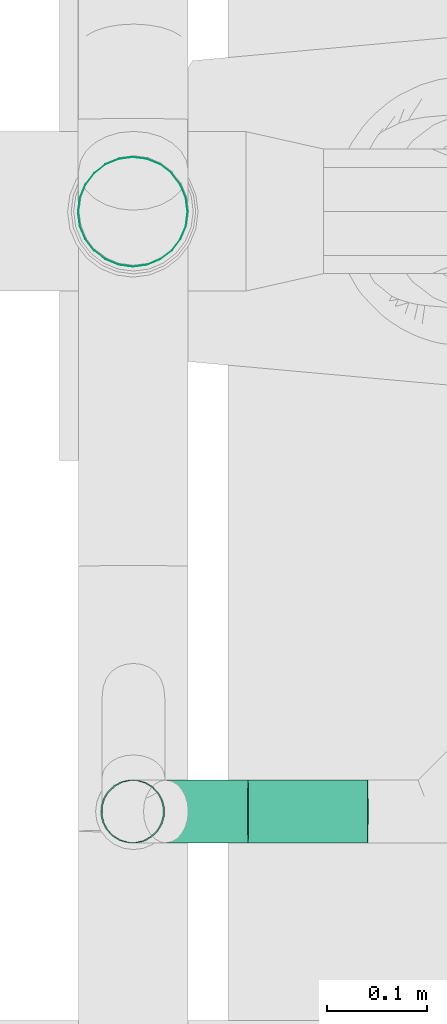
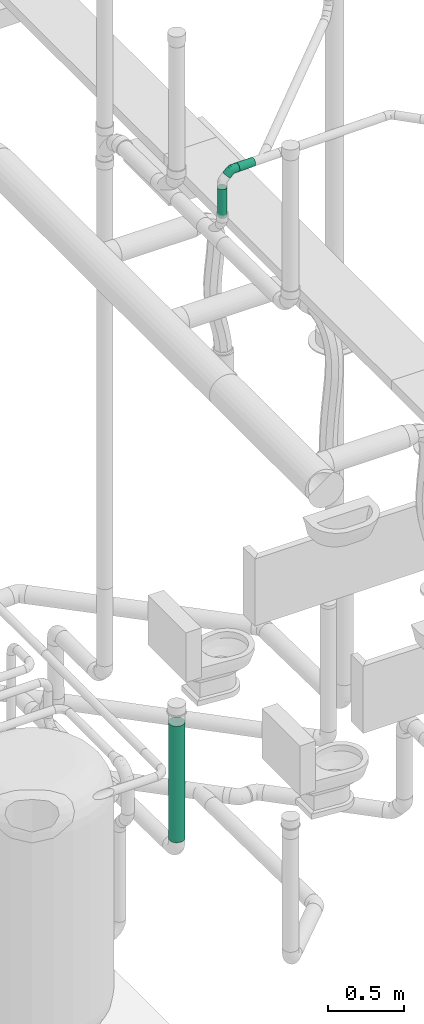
# One storey, part 300 of 374: 3 flow segments, 1 flow fitting.
"""IFC2X3 building model written with IfcOpenShell, lengths in metres."""

from ifc_helpers import new_model, si_unit, direction, origin, place, context, subcontext, project, spatial, open_shell, surface_model, source, transform, mapped, element, save


model = new_model("IFC2X3")

# Units and contexts
model_context = context("Model", 3, precision=1e-05, world=origin(), true_north=direction((-0.4480736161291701, 0.8939966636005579)))
body_context = subcontext(model_context, "Body", "Model", "MODEL_VIEW")
ifc_project = project(units=[si_unit("LENGTHUNIT", "METRE"), si_unit("AREAUNIT", "SQUARE_METRE"), si_unit("VOLUMEUNIT", "CUBIC_METRE"), si_unit("PLANEANGLEUNIT", "RADIAN"), si_unit("THERMODYNAMICTEMPERATUREUNIT", "KELVIN"), si_unit("MASSUNIT", "GRAM", prefix="KILO"), si_unit("TIMEUNIT", "SECOND")], contexts=[model_context])

# Site, building, storey
site_placement = place(None, origin())
site = spatial("IfcSite", under=ifc_project, at=site_placement, Name="Site 1", CompositionType="ELEMENT")
building_placement = place(site_placement, origin())
building = spatial("IfcBuilding", under=site, at=building_placement, Name="Undefined", CompositionType="ELEMENT")
storey_placement = place(building_placement, origin())
storey = spatial("IfcBuildingStorey", under=building, at=storey_placement, Name="Rez de chauss\x8ee", CompositionType="ELEMENT", Elevation=0.0)

# Flow segment
shared_shape_1 = source(origin(), body_context, "Body", "SurfaceModel", [
    surface_model("IfcFaceBasedSurfaceModel", [(0.0, 0.014357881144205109, -3.552713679e-15), (0.0, 0.0, 0.0), (0.937348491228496, 2.664535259e-15, 7.105427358e-15), (0.937348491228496, 0.014357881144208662, 7.105427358e-15), (0.0, -0.01386864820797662, -0.0037160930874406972), (0.937348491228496, -0.013868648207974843, -0.0037160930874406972), (0.0, -0.026302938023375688, -0.010895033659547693), (0.937348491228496, -0.026302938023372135, -0.010895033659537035), (0.0, -0.03645549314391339, -0.021047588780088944), (0.937348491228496, -0.03645549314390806, -0.02104758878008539), (0.0, -0.04363443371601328, -0.033481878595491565), (0.937348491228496, -0.043634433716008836, -0.03348187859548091), (0.0, -0.04735052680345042, -0.04735052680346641), (0.937348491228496, -0.04735052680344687, -0.047350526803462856), (0.0, -0.04735052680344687, -0.06170840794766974), (0.937348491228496, -0.047350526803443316, -0.06170840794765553), (0.0, -0.04363443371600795, -0.07557705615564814), (0.937348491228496, -0.04363443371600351, -0.07557705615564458), (0.0, -0.03645549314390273, -0.08801134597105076), (0.937348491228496, -0.036455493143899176, -0.0880113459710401), (0.0, -0.026302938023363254, -0.0981639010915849), (0.937348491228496, -0.0263029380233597, -0.09816390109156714), (0.0, -0.013868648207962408, -0.1053428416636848), (0.937348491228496, -0.013868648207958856, -0.10534284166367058), (0.0, 1.5987211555e-14, -0.10905893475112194), (0.937348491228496, 1.8651746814e-14, -0.10905893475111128), (0.0, 0.014357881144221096, -0.10905893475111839), (0.937348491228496, 0.014357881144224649, -0.10905893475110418), (0.0, 0.028226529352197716, -0.10534284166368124), (0.937348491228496, 0.02822652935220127, -0.10534284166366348), (0.0, 0.040660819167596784, -0.0981639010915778), (0.937348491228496, 0.04066081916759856, -0.09816390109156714), (0.0, 0.05081337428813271, -0.08801134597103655), (0.937348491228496, 0.05081337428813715, -0.08801134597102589), (0.0, 0.05799231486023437, -0.07557705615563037), (0.937348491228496, 0.057992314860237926, -0.07557705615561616), (0.0, 0.06170840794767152, -0.06170840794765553), (0.937348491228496, 0.06170840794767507, -0.061708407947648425), (0.0, 0.061708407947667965, -0.0473505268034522), (0.937348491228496, 0.061708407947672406, -0.04735052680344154), (0.0, 0.05799231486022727, -0.033481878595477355), (0.937348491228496, 0.0579923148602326, -0.033481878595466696), (0.0, 0.050813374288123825, -0.021047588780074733), (0.937348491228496, 0.0508133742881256, -0.021047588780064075), (0.0, 0.04066081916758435, -0.010895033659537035), (0.937348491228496, 0.040660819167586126, -0.010895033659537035), (0.0, 0.028226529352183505, -0.0037160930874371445), (0.937348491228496, 0.02822652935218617, -0.0037160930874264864)], [open_shell([[[0, 1, 2, 3]], [[1, 4, 5, 2]], [[4, 6, 7, 5]], [[6, 8, 9, 7]], [[8, 10, 11, 9]], [[10, 12, 13, 11]], [[12, 14, 15, 13]], [[14, 16, 17, 15]], [[16, 18, 19, 17]], [[18, 20, 21, 19]], [[20, 22, 23, 21]], [[22, 24, 25, 23]], [[24, 26, 27, 25]], [[26, 28, 29, 27]], [[28, 30, 31, 29]], [[30, 32, 33, 31]], [[32, 34, 35, 33]], [[34, 36, 37, 35]], [[36, 38, 39, 37]], [[38, 40, 41, 39]], [[40, 42, 43, 41]], [[42, 44, 45, 43]], [[44, 46, 47, 45]], [[46, 0, 3, 47]]])]),
])
flow_segment_1_placement = place(storey_placement, origin())
element("IfcFlowSegment", 1, at=flow_segment_1_placement, inside=storey, Name="PE-HD tuyau", ObjectType="PE-HD tuyau", context=body_context, shape_type="MappedRepresentation", body=[
    mapped(shared_shape_1, transform((57.02026578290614, 12.797656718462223, -1.0878484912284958), x_axis=(0.0, 0.0, 1.0), y_axis=(-0.13052619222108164, 0.9914448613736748, 0.0), z_axis=(-0.9914448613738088, -0.13052619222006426, 0.0))),
])

# Flow fitting
shared_shape_2 = source(origin(), body_context, "Body", "SurfaceModel", [
    surface_model("IfcFaceBasedSurfaceModel", [(0.03539999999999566, 1.776356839e-15, 0.0), (0.03539999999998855, 0.008223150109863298, 0.0), (0.0, 0.008223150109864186, -7.105427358e-15), (0.0, 0.0, 0.0), (0.03539999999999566, 0.016166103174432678, -0.0021283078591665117), (-7.105427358e-15, 0.016166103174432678, -0.0021283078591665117), (0.03539999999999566, 0.023287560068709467, -0.00623988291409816), (-7.105427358e-15, 0.023287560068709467, -0.00623988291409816), (0.03540000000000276, 0.02910220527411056, -0.012054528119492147), (-7.105427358e-15, 0.02910220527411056, -0.012054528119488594), (0.03539999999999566, 0.033213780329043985, -0.019175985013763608), (-7.105427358e-15, 0.03321378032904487, -0.019175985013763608), (0.03539999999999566, 0.035342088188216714, -0.027118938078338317), (-7.105427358e-15, 0.0353420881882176, -0.027118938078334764), (0.03540000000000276, 0.03534208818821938, -0.035342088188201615), (-7.105427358e-15, 0.03534208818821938, -0.03534208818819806), (0.03539999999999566, 0.03321378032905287, -0.043285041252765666), (-7.105427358e-15, 0.03321378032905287, -0.043285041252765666), (0.03539999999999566, 0.02910220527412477, -0.05040649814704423), (0.0, 0.029102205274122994, -0.05040649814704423), (0.03539999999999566, 0.023287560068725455, -0.05622114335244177), (-7.105427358e-15, 0.02328756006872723, -0.056221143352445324), (0.03539999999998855, 0.016166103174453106, -0.06033271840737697), (-7.105427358e-15, 0.016166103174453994, -0.06033271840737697), (0.03539999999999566, 0.00822315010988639, -0.06246102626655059), (0.0, 0.00822315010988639, -0.06246102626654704), (0.03539999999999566, 2.3092638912e-14, -0.06246102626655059), (0.0, 2.2204460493e-14, -0.06246102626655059), (0.03539999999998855, -0.007942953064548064, -0.06033271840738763), (-1.4210854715e-14, -0.007942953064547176, -0.06033271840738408), (0.03539999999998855, -0.015064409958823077, -0.05622114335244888), (-7.105427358e-15, -0.015064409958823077, -0.05622114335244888), (0.03539999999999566, -0.02087905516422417, -0.05040649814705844), (-7.105427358e-15, -0.02087905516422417, -0.050406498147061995), (0.03539999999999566, -0.024990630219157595, -0.043285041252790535), (-7.105427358e-15, -0.024990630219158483, -0.04328504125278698), (0.03539999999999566, -0.02711893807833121, -0.035342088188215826), (-1.4210854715e-14, -0.02711893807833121, -0.035342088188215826), (0.03539999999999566, -0.027118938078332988, -0.02711893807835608), (-7.105427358e-15, -0.027118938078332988, -0.027118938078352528), (0.03539999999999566, -0.024990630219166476, -0.01917598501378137), (0.0, -0.024990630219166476, -0.01917598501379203), (0.03539999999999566, -0.02087905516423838, -0.012054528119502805), (0.0, -0.020879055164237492, -0.012054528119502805), (0.035399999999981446, -0.015064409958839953, -0.006239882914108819), (-7.105427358e-15, -0.015064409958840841, -0.006239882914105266), (0.03539999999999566, -0.007942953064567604, -0.00212830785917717), (0.0, -0.007942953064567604, -0.002128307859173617), (-0.016006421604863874, 0.03327300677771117, -0.03561448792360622), (-0.01628162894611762, 0.03323743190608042, -0.027396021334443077), (-0.03094264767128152, 0.027204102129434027, -0.036413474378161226), (-0.031474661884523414, 0.027064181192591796, -0.028208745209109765), (-0.04381003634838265, 0.017541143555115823, -0.03768562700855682), (-0.044563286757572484, 0.01723508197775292, -0.029502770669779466), (-0.015199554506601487, 0.031248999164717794, -0.04354370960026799), (-0.029382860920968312, 0.02548602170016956, -0.04430241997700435), (-0.0416016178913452, 0.01631016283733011, -0.045510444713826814), (-0.013916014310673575, 0.02730334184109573, -0.050643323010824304), (-0.026901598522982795, 0.022027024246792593, -0.05133796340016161), (-0.038088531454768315, 0.013626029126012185, -0.05244397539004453), (-0.012243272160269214, 0.02170492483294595, -0.056429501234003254), (-0.02366795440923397, 0.01706283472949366, -0.057040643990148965), (-0.03351018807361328, 0.009671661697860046, -0.05801371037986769), (-0.010295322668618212, 0.014835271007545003, -0.060507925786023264), (-0.01990229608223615, 0.010931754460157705, -0.06102183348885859), (-0.02817859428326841, 0.004716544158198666, -0.061840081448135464), (-0.008204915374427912, 0.007162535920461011, -0.06260065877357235), (-0.015861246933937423, 0.004051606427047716, -0.06301022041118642), (-0.022457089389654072, -0.0009016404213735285, -0.06366232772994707), (-0.006114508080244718, -0.0007903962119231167, -0.06256508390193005), (-0.011820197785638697, -0.0031087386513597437, -0.06287029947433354), (-0.01673558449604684, -0.00680002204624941, -0.06335626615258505), (-0.004166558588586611, -0.008481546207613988, -0.0604036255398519), (-0.008054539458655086, -0.010061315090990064, -0.06061160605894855), (-0.011403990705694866, -0.012576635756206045, -0.06094275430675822), (-0.0024938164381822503, -0.015386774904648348, -0.05626358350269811), (-0.004820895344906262, -0.016332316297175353, -0.05638806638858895), (-0.0068256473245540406, -0.017837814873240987, -0.056586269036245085), (-0.0012102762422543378, -0.021035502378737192, -0.05042709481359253), (-0.002339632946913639, -0.0214943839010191, -0.05048750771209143), (-0.0033125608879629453, -0.022225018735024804, -0.050583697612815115), (-0.00040340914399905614, -0.0250427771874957, -0.043291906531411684), (-0.0007798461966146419, -0.025195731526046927, -0.04331204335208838), (-0.001104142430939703, -0.025439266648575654, -0.04334410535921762), (-0.00012820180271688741, -0.027135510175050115, -0.03534426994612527), (-0.0002478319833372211, -0.027184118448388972, -0.035350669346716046), (-0.00035089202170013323, -0.02726151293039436, -0.03536085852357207), (-0.00040340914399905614, -0.027171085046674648, -0.027125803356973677), (-0.0007798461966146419, -0.027324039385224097, -0.02714594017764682), (-0.001104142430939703, -0.0275675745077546, -0.02717800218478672), (-0.0012102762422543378, -0.0251470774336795, -0.01919658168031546), (-0.0023396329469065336, -0.025605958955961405, -0.019256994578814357), (-0.00331256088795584, -0.02633659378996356, -0.019353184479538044), (-0.0024938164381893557, -0.02120142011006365, -0.01209696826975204), (-0.004820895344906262, -0.022146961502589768, -0.012221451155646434), (-0.0068256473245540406, -0.023652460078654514, -0.012419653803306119), (-0.004166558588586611, -0.015603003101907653, -0.006310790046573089), (-0.00805453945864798, -0.01718277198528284, -0.006518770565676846), (-0.011403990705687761, -0.019698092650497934, -0.0068499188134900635), (-0.006114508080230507, -0.008733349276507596, -0.0022323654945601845), (-0.011820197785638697, -0.011051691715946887, -0.0025375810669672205), (-0.016735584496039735, -0.014742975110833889, -0.0030235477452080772), (-0.008204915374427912, -0.001060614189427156, -0.00013963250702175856), (-0.01586124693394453, -0.004171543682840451, -0.0005491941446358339), (-0.022457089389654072, -0.009124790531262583, -0.0012013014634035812), (-0.010295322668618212, 0.006892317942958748, -0.00017520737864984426), (-0.019902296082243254, 0.0029888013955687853, -0.0006891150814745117), (-0.02817859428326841, -0.0032264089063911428, -0.0015073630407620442), (-0.012243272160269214, 0.014583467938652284, -0.0023366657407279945), (-0.023667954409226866, 0.009941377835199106, -0.0029478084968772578), (-0.033510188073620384, 0.002550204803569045, -0.003920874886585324), (-0.013916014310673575, 0.02148869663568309, -0.006476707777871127), (-0.026901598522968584, 0.016212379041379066, -0.007171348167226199), (-0.038088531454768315, 0.007811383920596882, -0.00827736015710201), (-0.015199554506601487, 0.0271374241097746, -0.01231319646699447), (-0.029382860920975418, 0.02137444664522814, -0.013071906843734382), (-0.041601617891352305, 0.012198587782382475, -0.014279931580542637), (-0.01600642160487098, 0.031144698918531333, -0.019448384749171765), (-0.030942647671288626, 0.02507579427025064, -0.02024737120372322), (-0.04381003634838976, 0.015412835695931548, -0.021519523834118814), (-0.06902863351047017, -0.007089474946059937, -0.04092830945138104), (-0.06978188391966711, -0.007395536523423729, -0.03274545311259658), (-0.06682021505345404, -0.00832045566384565, -0.04875312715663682), (-0.06330712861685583, -0.011004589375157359, -0.055686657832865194), (-0.05872878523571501, -0.014958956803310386, -0.06125639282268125), (-0.053397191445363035, -0.019914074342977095, -0.06508276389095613), (-0.04767568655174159, -0.025532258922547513, -0.06690501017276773), (-0.04195418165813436, -0.031430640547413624, -0.06659894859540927), (-0.036622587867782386, -0.037207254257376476, -0.06418543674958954), (-0.032044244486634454, -0.042468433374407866, -0.05982895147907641), (-0.028531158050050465, -0.04685563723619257, -0.05382638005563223), (-0.026322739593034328, -0.05006988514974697, -0.04658678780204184), (-0.00035089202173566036, -0.02726151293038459, -0.03536085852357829), (-0.02556948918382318, -0.05189213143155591, -0.0386035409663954), (-0.026322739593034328, -0.05219819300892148, -0.03042068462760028), (-0.028531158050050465, -0.050967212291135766, -0.02259586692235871), (-0.03204424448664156, -0.04828307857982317, -0.015662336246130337), (-0.03662258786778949, -0.04432871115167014, -0.01009260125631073), (-0.04195418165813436, -0.03937359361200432, -0.006266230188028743), (-0.04767568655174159, -0.0337554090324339, -0.004443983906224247), (-0.053397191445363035, -0.02785702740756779, -0.004750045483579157), (-0.05872878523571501, -0.02208041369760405, -0.007163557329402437), (-0.06330712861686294, -0.016819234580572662, -0.01152004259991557), (-0.06682021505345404, -0.012432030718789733, -0.017522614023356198), (-0.06902863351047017, -0.00921778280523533, -0.024762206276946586)], [open_shell([[[0, 1, 2, 3]], [[1, 4, 5, 2]], [[4, 6, 7, 5]], [[6, 8, 9, 7]], [[8, 10, 11, 9]], [[10, 12, 13, 11]], [[12, 14, 15, 13]], [[14, 16, 17, 15]], [[16, 18, 19, 17]], [[18, 20, 21, 19]], [[20, 22, 23, 21]], [[22, 24, 25, 23]], [[24, 26, 27, 25]], [[26, 28, 29, 27]], [[28, 30, 31, 29]], [[30, 32, 33, 31]], [[32, 34, 35, 33]], [[34, 36, 37, 35]], [[36, 38, 39, 37]], [[38, 40, 41, 39]], [[40, 42, 43, 41]], [[42, 44, 45, 43]], [[44, 46, 47, 45]], [[46, 0, 3, 47]], [[13, 15, 48, 49]], [[49, 48, 50, 51]], [[51, 50, 52, 53]], [[15, 17, 54, 48]], [[48, 54, 55, 50]], [[50, 55, 56, 52]], [[17, 19, 57, 54]], [[54, 57, 58, 55]], [[55, 58, 59, 56]], [[19, 21, 60, 57]], [[57, 60, 61, 58]], [[58, 61, 62, 59]], [[21, 23, 63, 60]], [[60, 63, 64, 61]], [[61, 64, 65, 62]], [[23, 25, 66, 63]], [[63, 66, 67, 64]], [[64, 67, 68, 65]], [[25, 27, 69, 66]], [[66, 69, 70, 67]], [[67, 70, 71, 68]], [[27, 29, 72, 69]], [[69, 72, 73, 70]], [[70, 73, 74, 71]], [[29, 31, 75, 72]], [[72, 75, 76, 73]], [[73, 76, 77, 74]], [[31, 33, 78, 75]], [[75, 78, 79, 76]], [[76, 79, 80, 77]], [[33, 35, 81, 78]], [[78, 81, 82, 79]], [[79, 82, 83, 80]], [[35, 37, 84, 81]], [[81, 84, 85, 82]], [[82, 85, 86, 83]], [[37, 39, 87, 84]], [[84, 87, 88, 85]], [[85, 88, 89, 86]], [[39, 41, 90, 87]], [[87, 90, 91, 88]], [[88, 91, 92, 89]], [[41, 43, 93, 90]], [[90, 93, 94, 91]], [[91, 94, 95, 92]], [[43, 45, 96, 93]], [[93, 96, 97, 94]], [[94, 97, 98, 95]], [[45, 47, 99, 96]], [[96, 99, 100, 97]], [[97, 100, 101, 98]], [[47, 3, 102, 99]], [[99, 102, 103, 100]], [[100, 103, 104, 101]], [[3, 2, 105, 102]], [[102, 105, 106, 103]], [[103, 106, 107, 104]], [[2, 5, 108, 105]], [[105, 108, 109, 106]], [[106, 109, 110, 107]], [[5, 7, 111, 108]], [[108, 111, 112, 109]], [[109, 112, 113, 110]], [[7, 9, 114, 111]], [[111, 114, 115, 112]], [[112, 115, 116, 113]], [[9, 11, 117, 114]], [[114, 117, 118, 115]], [[115, 118, 119, 116]], [[11, 13, 49, 117]], [[117, 49, 51, 118]], [[118, 51, 53, 119]], [[53, 52, 120, 121]], [[52, 56, 122, 120]], [[56, 59, 123, 122]], [[59, 62, 124, 123]], [[62, 65, 125, 124]], [[65, 68, 126, 125]], [[68, 71, 127, 126]], [[71, 74, 128, 127]], [[74, 77, 129, 128]], [[77, 80, 130, 129]], [[80, 83, 131, 130]], [[83, 132, 133, 131]], [[132, 89, 134, 133]], [[89, 92, 135, 134]], [[92, 95, 136, 135]], [[95, 98, 137, 136]], [[98, 101, 138, 137]], [[101, 104, 139, 138]], [[104, 107, 140, 139]], [[107, 110, 141, 140]], [[110, 113, 142, 141]], [[113, 116, 143, 142]], [[116, 119, 144, 143]], [[119, 53, 121, 144]]])]),
])
flow_fitting_placement = place(storey_placement, origin())
element("IfcFlowFitting", 2, at=flow_fitting_placement, inside=storey, Name="PE-HD coude 45°", ObjectType="PE-HD coude 45°", context=body_context, shape_type="MappedRepresentation", body=[
    mapped(shared_shape_2, transform((57.131347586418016, 12.241499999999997, 4.626743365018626), x_axis=(-0.7017840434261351, 0.0, -0.7123897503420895), y_axis=(-0.7062951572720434, -0.13052619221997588, 0.6957801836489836), z_axis=(-0.09298552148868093, 0.9914448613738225, 0.09160119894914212))),
])

# Flow segments
shared_shape_3 = source(origin(), body_context, "Body", "SurfaceModel", [
    surface_model("IfcFaceBasedSurfaceModel", [(0.0001790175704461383, 0.008221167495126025, -7.105427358e-15), (0.0, 0.0, 0.0), (0.2332686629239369, 0.0, -7.105427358e-15), (0.23344768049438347, 0.008221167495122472, -1.4210854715e-14), (-0.00016681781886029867, -0.007941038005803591, -0.00212779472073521), (0.23310184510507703, -0.007941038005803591, -0.0021277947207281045), (-0.00031006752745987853, -0.015060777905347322, -0.006238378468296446), (0.2329585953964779, -0.015060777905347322, -0.006238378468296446), (-0.00041998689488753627, -0.020874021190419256, -0.012051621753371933), (0.23284867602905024, -0.02087402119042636, -0.012051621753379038), (-0.0004890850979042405, -0.024984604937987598, -0.01917136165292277), (0.2327795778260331, -0.024984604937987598, -0.019171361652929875), (-0.0005126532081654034, -0.027112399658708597, -0.02711239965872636), (0.23275600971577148, -0.027112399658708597, -0.02711239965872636), (-0.0004890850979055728, -0.02711239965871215, -0.03533356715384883), (0.2327795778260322, -0.02711239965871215, -0.03533356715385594), (-0.00041998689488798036, -0.024984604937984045, -0.04327460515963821), (0.23284867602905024, -0.024984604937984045, -0.04327460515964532), (-0.00031006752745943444, -0.02087402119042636, -0.050394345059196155), (0.23295859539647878, -0.02087402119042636, -0.05039434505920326), (-0.00016681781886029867, -0.015060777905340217, -0.056207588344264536), (0.23310184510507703, -0.015060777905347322, -0.05620758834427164), (8.8817842e-16, -0.007941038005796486, -0.06031817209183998), (0.23326866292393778, -0.007941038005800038, -0.06031817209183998), (0.00017901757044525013, 3.552713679e-15, -0.06244596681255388), (0.23344768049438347, -3.552713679e-15, -0.06244596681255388), (0.0003580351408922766, 0.00822116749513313, -0.06244596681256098), (0.23362669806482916, 0.00822116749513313, -0.06244596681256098), (0.0005248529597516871, 0.01616220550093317, -0.06031817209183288), (0.23379351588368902, 0.016162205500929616, -0.06031817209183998), (0.0006681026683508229, 0.0232819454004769, -0.05620758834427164), (0.23393676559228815, 0.023281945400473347, -0.05620758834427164), (0.0007780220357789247, 0.029095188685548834, -0.05039434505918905), (0.2340466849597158, 0.029095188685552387, -0.050394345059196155), (0.0008471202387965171, 0.033205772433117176, -0.04327460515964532), (0.23411578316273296, 0.03320577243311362, -0.04327460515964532), (0.0008706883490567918, 0.03533356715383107, -0.03533356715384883), (0.23413935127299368, 0.03533356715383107, -0.03533356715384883), (0.0008471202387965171, 0.03533356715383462, -0.027112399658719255), (0.23411578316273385, 0.03533356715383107, -0.02711239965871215), (0.0007780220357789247, 0.03320577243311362, -0.01917136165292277), (0.2340466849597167, 0.03320577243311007, -0.01917136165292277), (0.0006681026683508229, 0.029095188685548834, -0.012051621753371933), (0.23393676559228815, 0.029095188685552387, -0.012051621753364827), (0.0005248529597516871, 0.023281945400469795, -0.006238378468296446), (0.23379351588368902, 0.02328194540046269, -0.0062383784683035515), (0.00035803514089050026, 0.016162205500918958, -0.0021277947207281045), (0.23362669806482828, 0.016162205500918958, -0.0021277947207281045)], [open_shell([[[0, 1, 2, 3]], [[1, 4, 5, 2]], [[4, 6, 7, 5]], [[6, 8, 9, 7]], [[8, 10, 11, 9]], [[10, 12, 13, 11]], [[12, 14, 15, 13]], [[14, 16, 17, 15]], [[16, 18, 19, 17]], [[18, 20, 21, 19]], [[20, 22, 23, 21]], [[22, 24, 25, 23]], [[24, 26, 27, 25]], [[26, 28, 29, 27]], [[28, 30, 31, 29]], [[30, 32, 33, 31]], [[32, 34, 35, 33]], [[34, 36, 37, 35]], [[36, 38, 39, 37]], [[38, 40, 41, 39]], [[40, 42, 43, 41]], [[42, 44, 45, 43]], [[44, 46, 47, 45]], [[46, 0, 3, 47]]])]),
])
flow_segment_2_placement = place(storey_placement, origin())
element("IfcFlowSegment", 3, at=flow_segment_2_placement, inside=storey, Name="PE-HD tuyau", ObjectType="PE-HD tuyau", context=body_context, shape_type="MappedRepresentation", body=[
    mapped(shared_shape_3, transform((57.054169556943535, 12.185499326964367, 4.2847633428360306), x_axis=(-0.006449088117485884, 0.00015959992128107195, 0.9999791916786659), y_axis=(-0.687948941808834, 0.7257448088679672, -0.004552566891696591), z_axis=(-0.7257304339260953, -0.6879639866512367, -0.004570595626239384))),
])
shared_shape_4 = source(origin(), body_context, "Body", "SurfaceModel", [
    surface_model("IfcFaceBasedSurfaceModel", [(9.451681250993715e-07, 0.008223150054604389, 0.0), (0.0, 0.0, 0.0), (0.12025013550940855, 0.0, -1.776356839e-15), (0.12025108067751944, 0.0082231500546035, 0.0), (-8.807564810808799e-07, -0.007942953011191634, -0.0021283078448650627), (0.12024925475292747, -0.007942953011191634, -0.0021283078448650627), (-1.6370792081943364e-06, -0.01506440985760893, -0.006239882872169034), (0.12024849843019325, -0.01506440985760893, -0.006239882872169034), (-2.217426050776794e-06, -0.020879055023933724, -0.012054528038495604), (0.12024791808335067, -0.020879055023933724, -0.012054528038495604), (-2.582247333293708e-06, -0.02499063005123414, -0.019175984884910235), (0.12024755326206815, -0.02499063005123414, -0.019175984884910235), (-2.7066810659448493e-06, -0.02711893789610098, -0.02711893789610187), (0.1202474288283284, -0.02711893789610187, -0.027118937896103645), (-2.582247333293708e-06, -0.027118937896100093, -0.03534208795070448), (0.12024755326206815, -0.02711893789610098, -0.03534208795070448), (-2.217426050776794e-06, -0.024990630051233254, -0.043285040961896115), (0.12024791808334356, -0.024990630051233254, -0.04328504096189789), (-1.6370792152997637e-06, -0.020879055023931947, -0.050406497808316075), (0.12024849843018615, -0.02087905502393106, -0.050406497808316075), (-8.807564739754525e-07, -0.015064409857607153, -0.05622114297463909), (0.12024925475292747, -0.015064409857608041, -0.05622114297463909), (0.0, -0.007942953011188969, -0.06033271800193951), (0.12025013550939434, -0.007942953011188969, -0.06033271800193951), (9.451681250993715e-07, 1.776356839e-15, -0.06246102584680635), (0.12025108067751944, 1.776356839e-15, -0.06246102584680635), (1.8903362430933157e-06, 0.008223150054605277, -0.06246102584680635), (0.12025202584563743, 0.008223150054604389, -0.06246102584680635), (2.7710927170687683e-06, 0.01616610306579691, -0.06033271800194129), (0.12025290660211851, 0.016166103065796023, -0.06033271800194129), (3.5274154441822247e-06, 0.023287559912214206, -0.05622114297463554), (0.12025366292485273, 0.023287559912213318, -0.05622114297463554), (4.10776229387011e-06, 0.029102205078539, -0.05040649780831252), (0.12025424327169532, 0.029102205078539, -0.0504064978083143), (4.472583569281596e-06, 0.03321378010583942, -0.04328504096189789), (0.12025460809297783, 0.03321378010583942, -0.04328504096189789), (4.597017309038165e-06, 0.03534208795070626, -0.035342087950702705), (0.12025473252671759, 0.03534208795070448, -0.035342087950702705), (4.472583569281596e-06, 0.03534208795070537, -0.02711893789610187), (0.12025460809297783, 0.03534208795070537, -0.02711893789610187), (4.10776229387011e-06, 0.03321378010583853, -0.019175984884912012), (0.12025424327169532, 0.03321378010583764, -0.019175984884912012), (3.527415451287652e-06, 0.029102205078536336, -0.012054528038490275), (0.12025366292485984, 0.029102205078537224, -0.012054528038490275), (2.7710927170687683e-06, 0.02328755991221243, -0.006239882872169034), (0.12025290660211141, 0.023287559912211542, -0.006239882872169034), (1.890336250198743e-06, 0.016166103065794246, -0.0021283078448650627), (0.12025202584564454, 0.016166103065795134, -0.0021283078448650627)], [open_shell([[[0, 1, 2, 3]], [[1, 4, 5, 2]], [[4, 6, 7, 5]], [[6, 8, 9, 7]], [[8, 10, 11, 9]], [[10, 12, 13, 11]], [[12, 14, 15, 13]], [[14, 16, 17, 15]], [[16, 18, 19, 17]], [[18, 20, 21, 19]], [[20, 22, 23, 21]], [[22, 24, 25, 23]], [[24, 26, 27, 25]], [[26, 28, 29, 27]], [[28, 30, 31, 29]], [[30, 32, 33, 31]], [[32, 34, 35, 33]], [[34, 36, 37, 35]], [[36, 38, 39, 37]], [[38, 40, 41, 39]], [[40, 42, 43, 41]], [[42, 44, 45, 43]], [[44, 46, 47, 45]], [[46, 0, 3, 47]]])]),
])
flow_segment_3_placement = place(storey_placement, origin())
element("IfcFlowSegment", 4, at=flow_segment_3_placement, inside=storey, Name="PE-HD tuyau", ObjectType="PE-HD tuyau", context=body_context, shape_type="MappedRepresentation", body=[
    mapped(shared_shape_4, transform((57.3094195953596, 12.240426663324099, 4.6304583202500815), x_axis=(-0.999888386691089, -1.4772181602e-14, -0.01494035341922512), y_axis=(-0.014812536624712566, 0.13052619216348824, 0.9913342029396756), z_axis=(0.0019501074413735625, 0.9914448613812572, -0.13051162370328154))),
])

save(model, "model.ifc")
